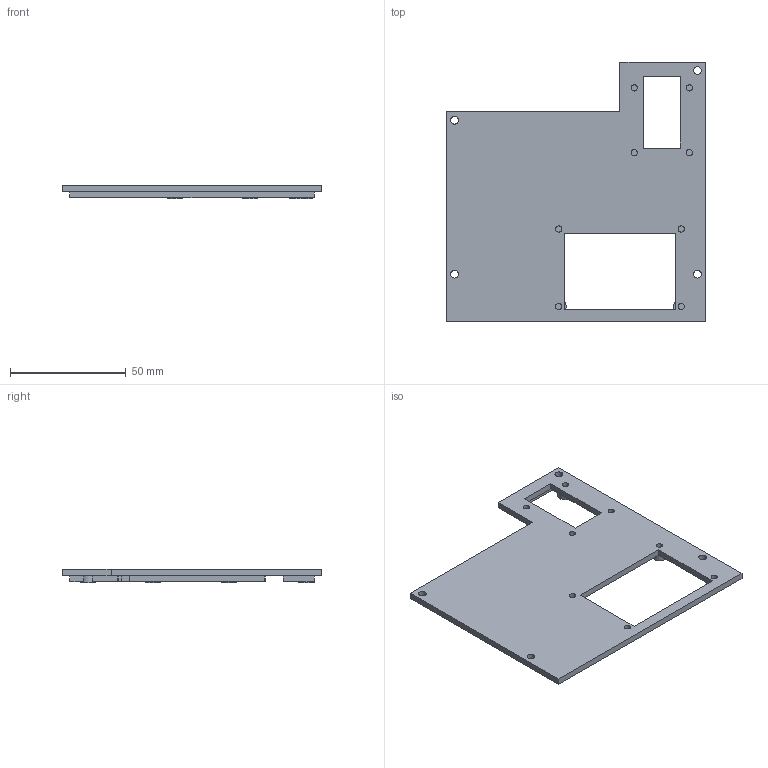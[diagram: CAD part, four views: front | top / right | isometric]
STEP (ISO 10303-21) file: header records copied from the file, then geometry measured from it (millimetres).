
FILE_DESCRIPTION(('FreeCAD Model'),'2;1');
FILE_NAME('Open CASCADE Shape Model','2026-11-16T14:52:49',('FreeCAD'),( 'FreeCAD'),'Open CASCADE STEP processor 7.9','FreeCAD','Unknown');
FILE_SCHEMA(('AUTOMOTIVE_DESIGN { 1 0 10303 214 1 1 1 1 }'));
Length unit declared in the file: millimetre
Products named in the file (1): Open CASCADE STEP translator 7.9 2
Bounding box: 112 x 112 x 5.8 mm (x, y, z)
Volume: 26633.2 mm3; surface area: 22459.2 mm2
Topology: 1 solids, 1 shells, 95 faces, 242 edges, 162 vertices
Faces by surface type: plane 66, cylinder 29
Full cylindrical faces by diameter (mm): 2.7 x8, 3.4 x4, 6.6 x8
Entity records: 2926 total; most frequent: DIRECTION 514, CARTESIAN_POINT 500, ORIENTED_EDGE 484, EDGE_CURVE 242, AXIS2_PLACEMENT_3D 176, VERTEX_POINT 162, LINE 162, VECTOR 162
